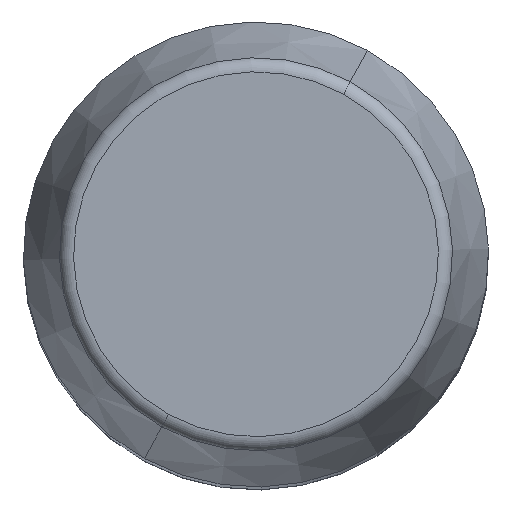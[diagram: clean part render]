
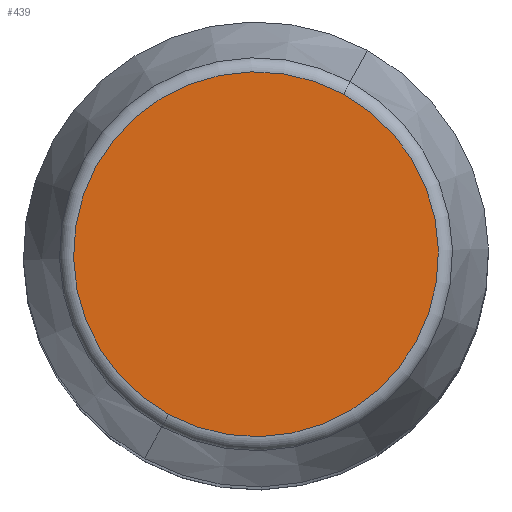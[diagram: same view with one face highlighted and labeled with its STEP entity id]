
A CAD part, top view. The second image highlights one B-rep face of the part: STEP entity #439.
In plain terms, the highlighted planar face has unit normal (0, 0, 1).
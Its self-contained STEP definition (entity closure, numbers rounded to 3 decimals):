
#391=CARTESIAN_POINT('Vertex',(-6.018,-11.016,140.)) ;
#394=CARTESIAN_POINT('Axis2P3D Location',(0.,0.,140.)) ;
#398=CARTESIAN_POINT('Vertex',(6.018,11.016,140.)) ;
#418=CARTESIAN_POINT('Axis2P3D Location',(0.,0.,140.)) ;
#430=CARTESIAN_POINT('Axis2P3D Location',(0.,12.553,140.)) ;
#395=DIRECTION('Axis2P3D Direction',(0.,0.,-1.)) ;
#419=DIRECTION('Axis2P3D Direction',(0.,0.,-1.)) ;
#431=DIRECTION('Axis2P3D Direction',(0.,0.,-1.)) ;
#432=DIRECTION('Axis2P3D XDirection',(1.,0.,0.)) ;
#396=AXIS2_PLACEMENT_3D('Circle Axis2P3D',#394,#395,$) ;
#420=AXIS2_PLACEMENT_3D('Circle Axis2P3D',#418,#419,$) ;
#433=AXIS2_PLACEMENT_3D('Plane Axis2P3D',#430,#431,#432) ;
#436=ORIENTED_EDGE('',*,*,#422,.F.) ;
#437=ORIENTED_EDGE('',*,*,#400,.F.) ;
#439=ADVANCED_FACE('PartBody',(#438),#434,.F.) ;
#397=CIRCLE('generated circle',#396,12.553) ;
#421=CIRCLE('generated circle',#420,12.553) ;
#400=EDGE_CURVE('',#392,#399,#397,.T.) ;
#422=EDGE_CURVE('',#399,#392,#421,.T.) ;
#435=EDGE_LOOP('',(#436,#437)) ;
#438=FACE_OUTER_BOUND('',#435,.T.) ;
#434=PLANE('Plane',#433) ;
#392=VERTEX_POINT('',#391) ;
#399=VERTEX_POINT('',#398) ;
